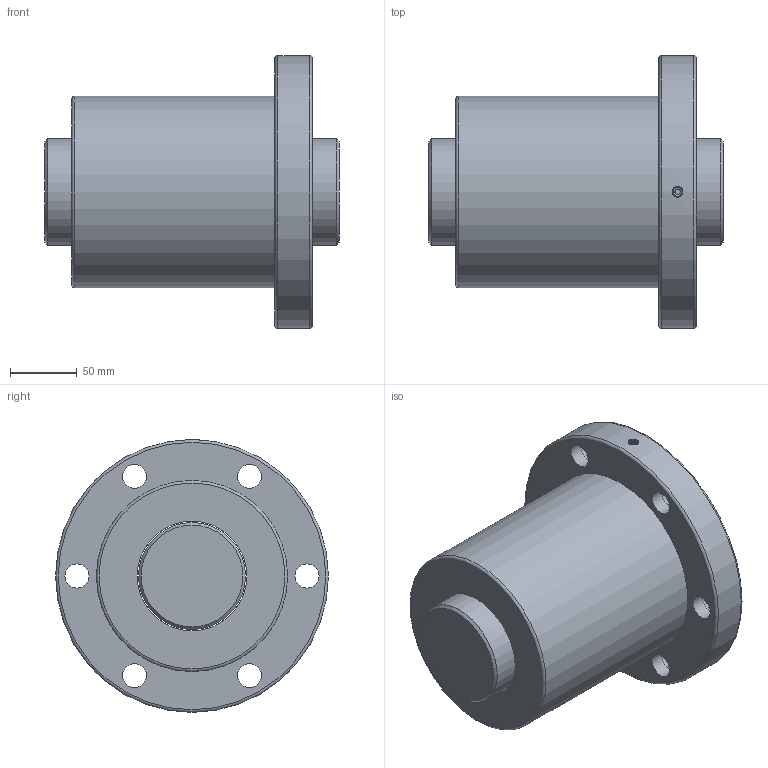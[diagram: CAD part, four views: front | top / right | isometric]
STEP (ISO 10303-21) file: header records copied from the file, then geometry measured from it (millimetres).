
FILE_DESCRIPTION (( 'STEP AP203' ), '1' );
FILE_NAME ('SFV08020-4.8.STEP', '2023-08-16T03:38:31', ( '' ), ( '' ), 'SwSTEP 2.0', 'SolidWorks 2022', '' );
FILE_SCHEMA (( 'CONFIG_CONTROL_DESIGN' ));
Length unit declared in the file: millimetre
Products named in the file (1): SFV08020-4.8
Bounding box: 220 x 204 x 204 mm (x, y, z)
Volume: 3435571.1 mm3; surface area: 260750.8 mm2
Topology: 2 solids, 2 shells, 40 faces, 85 edges, 56 vertices
Faces by surface type: cylinder 20, plane 12, cone 3, torus 3, bspline 2
Full cylindrical faces by diameter (mm): 4 x1, 6.917 x1, 18 x6, 26 x6, 80 x1, 82 x1, 143 x1, 204 x1
Entity records: 2819 total; most frequent: CARTESIAN_POINT 1985, DIRECTION 162, ORIENTED_EDGE 106, EDGE_LOOP 87, AXIS2_PLACEMENT_3D 81, FACE_OUTER_BOUND 61, EDGE_CURVE 53, VERTEX_POINT 48
